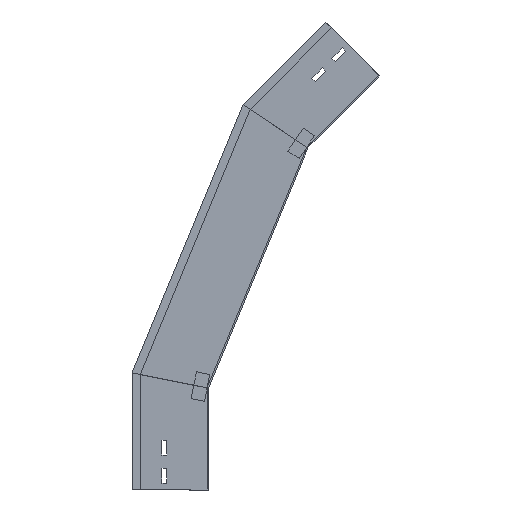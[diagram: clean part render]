
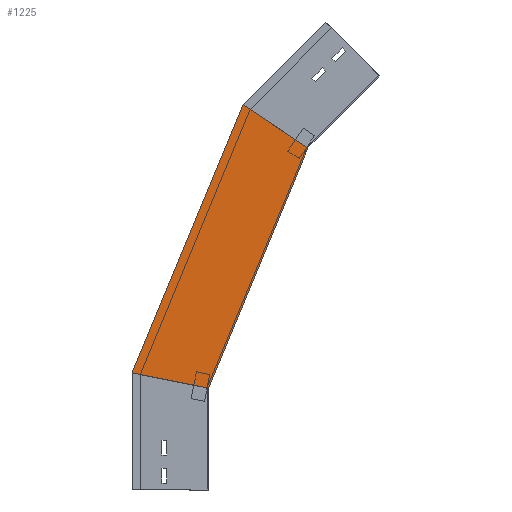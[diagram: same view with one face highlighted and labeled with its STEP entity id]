
A CAD part, left-side view. The second image highlights one B-rep face of the part: STEP entity #1225.
In plain terms, the highlighted planar face has unit normal (-1, 0, 0) as drawn and (1, 0, 0) by its records, which use the part's own axes.
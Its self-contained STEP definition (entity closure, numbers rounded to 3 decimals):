
#17 = AXIS2_PLACEMENT_3D ( 'NONE', #1261, #1380, #1037 ) ;
#42 = EDGE_CURVE ( 'NONE', #527, #815, #206, .T. ) ;
#64 = ORIENTED_EDGE ( 'NONE', *, *, #42, .F. ) ;
#83 = CARTESIAN_POINT ( 'NONE',  ( 0., 113.395, 170.218 ) ) ;
#166 = DIRECTION ( 'NONE',  ( 0., -0.831, -0.556 ) ) ;
#206 = LINE ( 'NONE', #1018, #442 ) ;
#281 = CARTESIAN_POINT ( 'NONE',  ( 0., -212.704, 459.655 ) ) ;
#296 = VERTEX_POINT ( 'NONE', #663 ) ;
#302 = VECTOR ( 'NONE', #888, 1000. ) ;
#341 = PLANE ( 'NONE',  #17 ) ;
#376 = LINE ( 'NONE', #281, #1061 ) ;
#442 = VECTOR ( 'NONE', #1124, 1000. ) ;
#468 = EDGE_LOOP ( 'NONE', ( #629, #1418, #1461, #64 ) ) ;
#486 = CARTESIAN_POINT ( 'NONE',  ( 0., 0., 150. ) ) ;
#527 = VERTEX_POINT ( 'NONE', #811 ) ;
#629 = ORIENTED_EDGE ( 'NONE', *, *, #698, .T. ) ;
#663 = CARTESIAN_POINT ( 'NONE',  ( 0., -146.568, 503.846 ) ) ;
#674 = EDGE_CURVE ( 'NONE', #815, #296, #880, .T. ) ;
#698 = EDGE_CURVE ( 'NONE', #527, #1094, #1482, .T. ) ;
#778 = CARTESIAN_POINT ( 'NONE',  ( 0., 9.458, 127.166 ) ) ;
#811 = CARTESIAN_POINT ( 'NONE',  ( 0., 112.5, 172.378 ) ) ;
#815 = VERTEX_POINT ( 'NONE', #486 ) ;
#880 = LINE ( 'NONE', #778, #1274 ) ;
#886 = CARTESIAN_POINT ( 'NONE',  ( 0., -51.195, 567.572 ) ) ;
#888 = DIRECTION ( 'NONE',  ( 0., -0.383, 0.924 ) ) ;
#987 = EDGE_CURVE ( 'NONE', #1094, #296, #376, .T. ) ;
#1018 = CARTESIAN_POINT ( 'NONE',  ( 0., -28.701, 144.291 ) ) ;
#1037 = DIRECTION ( 'NONE',  ( 0., 0., -1. ) ) ;
#1061 = VECTOR ( 'NONE', #166, 1000. ) ;
#1094 = VERTEX_POINT ( 'NONE', #886 ) ;
#1124 = DIRECTION ( 'NONE',  ( 0., -0.981, -0.195 ) ) ;
#1130 = FACE_OUTER_BOUND ( 'NONE', #468, .T. ) ;
#1225 = ADVANCED_FACE ( 'NONE', ( #1130 ), #341, .T. ) ;
#1261 = CARTESIAN_POINT ( 'NONE',  ( 0., 9.458, 127.166 ) ) ;
#1274 = VECTOR ( 'NONE', #1465, 1000. ) ;
#1380 = DIRECTION ( 'NONE',  ( 1., 0., 0. ) ) ;
#1418 = ORIENTED_EDGE ( 'NONE', *, *, #987, .T. ) ;
#1461 = ORIENTED_EDGE ( 'NONE', *, *, #674, .F. ) ;
#1465 = DIRECTION ( 'NONE',  ( 0., -0.383, 0.924 ) ) ;
#1482 = LINE ( 'NONE', #83, #302 ) ;
